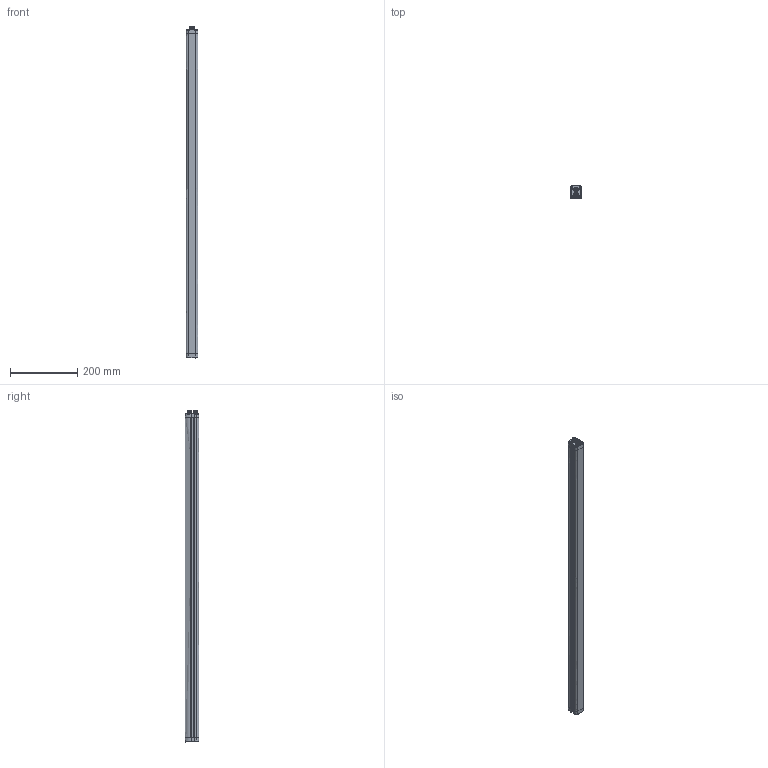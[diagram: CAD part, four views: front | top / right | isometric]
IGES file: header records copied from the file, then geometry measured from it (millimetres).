
Global section: file name: C:\Users\fguttadauro\OneDrive - Datalogic S.p.a\Desktop\AP021404_01-DSD-0978 DS2-05-07-090 _RX_.igs; native system: NX V1926; preprocessor: SIEMENS PLM Software NX 1946; date: 20220407.163610; units: millimetre
Bounding box: 35 x 40 x 991 mm (x, y, z)
Surface area: 189811 mm2 (no closed solid volume)
Topology: 0 solids, 0 shells, 613 faces, 3884 edges, 3790 vertices
Faces by surface type: bspline 613
